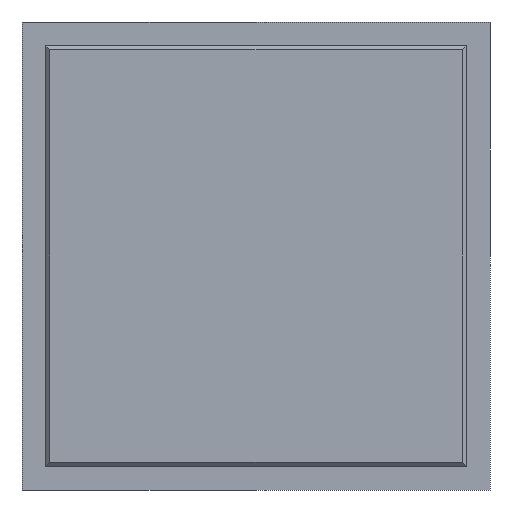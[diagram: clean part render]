
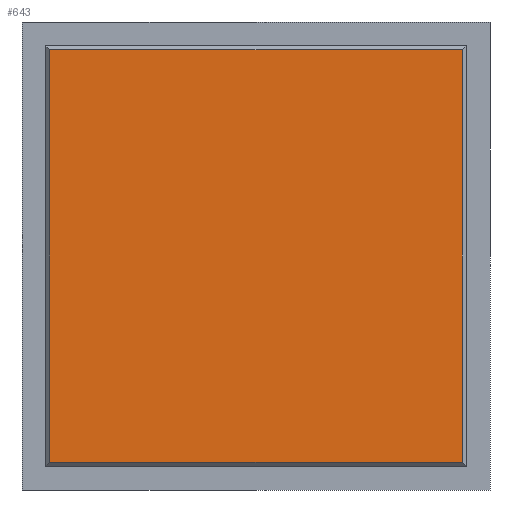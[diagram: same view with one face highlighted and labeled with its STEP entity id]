
A CAD part, front view. The second image highlights one B-rep face of the part: STEP entity #643.
In plain terms, the highlighted planar face has unit normal (0, -1, 0).
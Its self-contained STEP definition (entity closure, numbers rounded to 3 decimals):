
#53=FACE_OUTER_BOUND('',#92,.T.);
#92=EDGE_LOOP('',(#456,#457,#458,#459));
#129=LINE('',#945,#211);
#133=LINE('',#954,#215);
#138=LINE('',#962,#220);
#139=LINE('',#964,#221);
#211=VECTOR('',#768,10.);
#215=VECTOR('',#774,10.);
#220=VECTOR('',#781,10.);
#221=VECTOR('',#784,10.);
#293=VERTEX_POINT('',#943);
#294=VERTEX_POINT('',#944);
#297=VERTEX_POINT('',#952);
#298=VERTEX_POINT('',#953);
#348=EDGE_CURVE('',#293,#294,#129,.T.);
#352=EDGE_CURVE('',#297,#298,#133,.T.);
#357=EDGE_CURVE('',#298,#293,#138,.T.);
#358=EDGE_CURVE('',#294,#297,#139,.T.);
#456=ORIENTED_EDGE('',*,*,#352,.F.);
#457=ORIENTED_EDGE('',*,*,#358,.F.);
#458=ORIENTED_EDGE('',*,*,#348,.F.);
#459=ORIENTED_EDGE('',*,*,#357,.F.);
#606=PLANE('',#722);
#643=ADVANCED_FACE('',(#53),#606,.F.);
#722=AXIS2_PLACEMENT_3D('',#976,#795,#796);
#768=DIRECTION('',(1.,0.,0.));
#774=DIRECTION('',(-1.,0.,0.));
#781=DIRECTION('',(0.,0.,1.));
#784=DIRECTION('',(0.,0.,-1.));
#795=DIRECTION('center_axis',(0.,1.,0.));
#796=DIRECTION('ref_axis',(1.,0.,0.));
#943=CARTESIAN_POINT('',(-10.575,0.,10.575));
#944=CARTESIAN_POINT('',(10.575,0.,10.575));
#945=CARTESIAN_POINT('',(-5.388,0.,10.575));
#952=CARTESIAN_POINT('',(10.575,0.,-10.575));
#953=CARTESIAN_POINT('',(-10.575,0.,-10.575));
#954=CARTESIAN_POINT('',(5.388,0.,-10.575));
#962=CARTESIAN_POINT('',(-10.575,0.,-5.388));
#964=CARTESIAN_POINT('',(10.575,0.,5.388));
#976=CARTESIAN_POINT('Origin',(0.,0.,0.));
